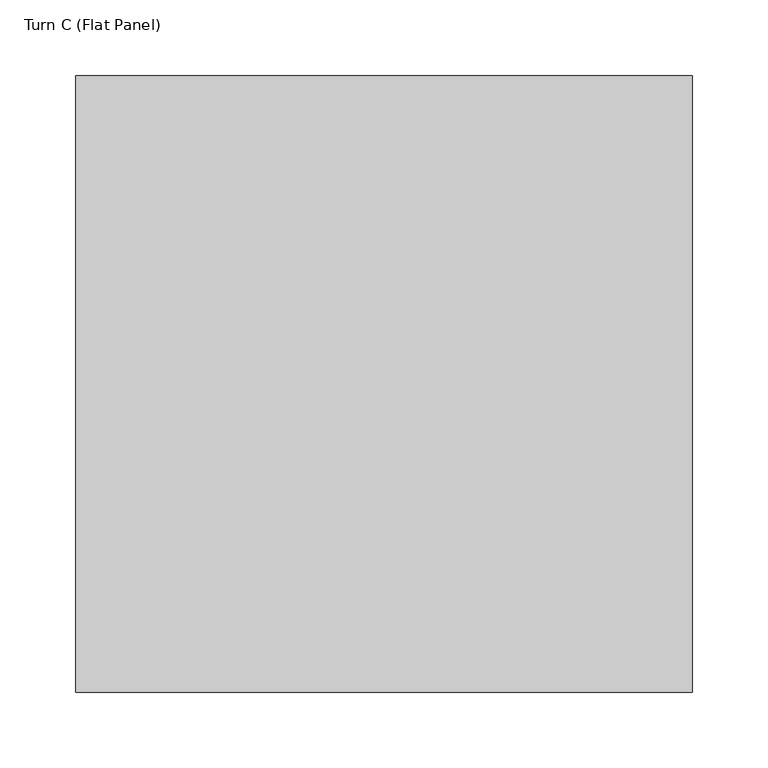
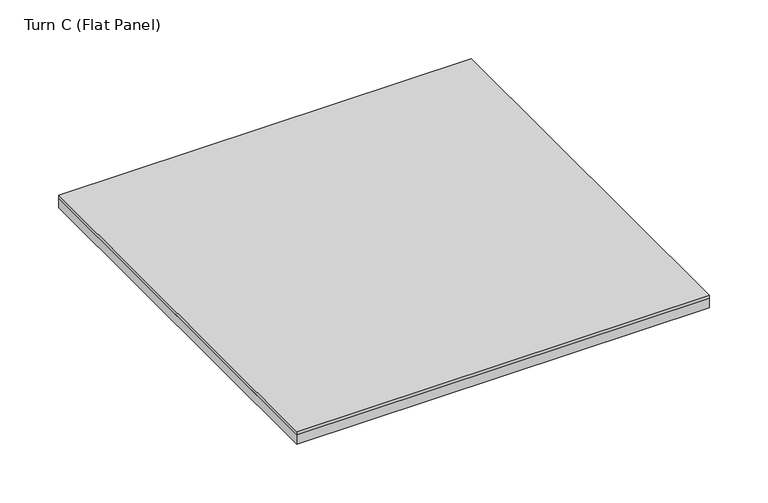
"""IFC4 building model written with IfcOpenShell, lengths in millimetres: proxy geometry, FilzFelt_Turn : Turn C (Flat Panel)."""

import ifcopenshell
import ifcopenshell.guid

model = None  # the IFC model being written
_history = None  # IfcOwnerHistory: only IFC2X3 demands one
_inside = {}  # id of a spatial element -> (the spatial element, [elements in it])
_under = {}  # id of a project, library or spatial element -> (it, [spatial elements below it])
_declared = {}  # id of a project -> (the project, [libraries it declares])
_typed = {}  # id of a type object -> (the type object, [elements of that type])
_made_of = {}  # id of a material, layer set ... -> (it, [elements and type objects made of it])


def new_model(schema):
    """Start an empty IFC model of exactly this schema.

    Asked for "IFC4X3", IfcOpenShell would pick the latest addendum, in which some entities
    have other attributes; the version numbers below select the first issue.
    IFC2X3 requires an IfcOwnerHistory on every rooted entity: one is made here for all.
    """
    global model, _history
    if schema == "IFC4X3":
        model = ifcopenshell.file(schema_version=(4, 3, 0, 0))
    else:
        model = ifcopenshell.file(schema=schema)
    _inside.clear()
    _under.clear()
    _declared.clear()
    _typed.clear()
    _made_of.clear()
    _history = None
    if model.schema == "IFC2X3":
        org = make("IfcOrganization", Name="unknown")
        user = make(
            "IfcPersonAndOrganization",
            ThePerson=make("IfcPerson", FamilyName="unknown"),
            TheOrganization=org,
        )
        app = make(
            "IfcApplication",
            ApplicationDeveloper=org,
            Version="unknown",
            ApplicationFullName="unknown",
            ApplicationIdentifier="unknown",
        )
        _history = make(
            "IfcOwnerHistory",
            OwningUser=user,
            OwningApplication=app,
            ChangeAction="ADDED",
            CreationDate=0,
        )
    return model


def make(cls, **values):
    """One entity of the class cls with the attributes given. An attribute that is None is left unset."""
    return model.create_entity(
        cls, **{name: value for name, value in values.items() if value is not None}
    )


def rooted(cls, **values):
    """An entity with a GlobalId (a new one), such as an element, a storey or a relation."""
    return make(cls, GlobalId=ifcopenshell.guid.new(), OwnerHistory=_history, **values)


def si_unit(unit_type, name, prefix=None):
    """IfcSIUnit, for example si_unit("LENGTHUNIT", "METRE", prefix="MILLI")."""
    return make("IfcSIUnit", UnitType=unit_type, Prefix=prefix, Name=name)


def assignment(units):
    """IfcUnitAssignment: the units of a project."""
    return None if units is None else make("IfcUnitAssignment", Units=units)


def point(xyz):
    """IfcCartesianPoint."""
    return None if xyz is None else make("IfcCartesianPoint", Coordinates=xyz)


def direction(xyz):
    """IfcDirection."""
    return None if xyz is None else make("IfcDirection", DirectionRatios=xyz)


def frame(location, z_axis=None, x_axis=None):
    """IfcAxis2Placement3D, a coordinate frame: its origin and axes. An axis left out is left unset."""
    return make(
        "IfcAxis2Placement3D",
        Location=point(location),
        Axis=direction(z_axis),
        RefDirection=direction(x_axis),
    )


def origin():
    """The frame at (0, 0, 0) with its axes left unset."""
    return frame((0.0, 0.0, 0.0))


def origin_with_axes():
    """The frame at (0, 0, 0) with the z axis (0, 0, 1) and the x axis (1, 0, 0) written out."""
    return frame((0.0, 0.0, 0.0), z_axis=(0.0, 0.0, 1.0), x_axis=(1.0, 0.0, 0.0))


def place(relative_to, where):
    """IfcLocalPlacement: puts the frame where relative to a parent placement (None: the world)."""
    return make(
        "IfcLocalPlacement", PlacementRelTo=relative_to, RelativePlacement=where
    )


def context(
    kind, dimensions, precision=None, world=None, true_north=None, identifier=None
):
    """IfcGeometricRepresentationContext, for example the 3D "Model" context."""
    return make(
        "IfcGeometricRepresentationContext",
        ContextIdentifier=identifier,
        ContextType=kind,
        CoordinateSpaceDimension=dimensions,
        Precision=precision,
        WorldCoordinateSystem=world,
        TrueNorth=true_north,
    )


def project(units=None, contexts=None):
    """IfcProject with its units and contexts."""
    return rooted(
        "IfcProject",
        Name="project",
        RepresentationContexts=contexts,
        UnitsInContext=assignment(units),
    )


def spatial(cls, under=None, at=None, **own):
    """A site, building, storey or space (cls), placed at a placement, below another one or the project."""
    s = rooted(cls, ObjectPlacement=at, **own)
    if under is not None:
        _under.setdefault(under.id(), (under, []))[1].append(s)
    return s


def polyline(points):
    """IfcPolyline through the points."""
    return make("IfcPolyline", Points=[point(p) for p in points])


def outline(outer, holes=None, kind="AREA"):
    """IfcArbitraryClosedProfileDef: a profile drawn as a closed curve; with holes, ...WithVoids."""
    if holes is None:
        return make("IfcArbitraryClosedProfileDef", ProfileType=kind, OuterCurve=outer)
    return make(
        "IfcArbitraryProfileDefWithVoids",
        ProfileType=kind,
        OuterCurve=outer,
        InnerCurves=holes,
    )


def extrude(swept, where, along, depth):
    """IfcExtrudedAreaSolid: the profile swept, set in the frame where, extruded along a direction by depth."""
    return make(
        "IfcExtrudedAreaSolid",
        SweptArea=swept,
        Position=where,
        ExtrudedDirection=direction(along),
        Depth=depth,
    )


def shape(context_of_items, identifier, shape_type, items):
    """IfcShapeRepresentation: the items that make up one representation, for example the "Body"."""
    return make(
        "IfcShapeRepresentation",
        ContextOfItems=context_of_items,
        RepresentationIdentifier=identifier,
        RepresentationType=shape_type,
        Items=items,
    )


def source(mapping_origin, context_of_items, identifier, shape_type, items):
    """IfcRepresentationMap: a shape defined once, which mapped items show again and again."""
    return make(
        "IfcRepresentationMap",
        MappingOrigin=mapping_origin,
        MappedRepresentation=shape(context_of_items, identifier, shape_type, items),
    )


def transform(
    local_origin,
    x_axis=None,
    y_axis=None,
    z_axis=None,
    scale=None,
    scale2=None,
    scale3=None,
    uniform=True,
):
    """IfcCartesianTransformationOperator3D, or its non-uniform kind. x_axis, y_axis, z_axis: its Axis1, 2, 3."""
    if uniform:
        return make(
            "IfcCartesianTransformationOperator3D",
            Axis1=direction(x_axis),
            Axis2=direction(y_axis),
            LocalOrigin=point(local_origin),
            Scale=scale,
            Axis3=direction(z_axis),
        )
    return make(
        "IfcCartesianTransformationOperator3DnonUniform",
        Axis1=direction(x_axis),
        Axis2=direction(y_axis),
        LocalOrigin=point(local_origin),
        Scale=scale,
        Axis3=direction(z_axis),
        Scale2=scale2,
        Scale3=scale3,
    )


def mapped(mapping_source, mapping_target):
    """IfcMappedItem: shows the shape of a source again, moved by a transform."""
    return make(
        "IfcMappedItem", MappingSource=mapping_source, MappingTarget=mapping_target
    )


def made_of(thing, what):
    """Note that an element or type object is made of a material, layer set ...; save() writes the relation."""
    if what is not None:
        _made_of.setdefault(what.id(), (what, []))[1].append(thing)
    return thing


def element(
    cls,
    number,
    at=None,
    inside=None,
    cuts=None,
    type_object=None,
    material=None,
    context=None,
    identifier="Body",
    shape_type=None,
    held_by="IfcProductDefinitionShape",
    body=None,
    shapes=None,
    **own,
):
    """One element of the class cls, such as IfcWall. Its Tag is "e" and its number.

    at: its placement. inside: the storey or other place that contains it. cuts: it is an
    opening in that element (IfcRelVoidsElement). A single representation is given by context,
    identifier, shape_type and body (its items); several are given by shapes. held_by: the class
    of the entity that holds the representations. save() writes the other relations.
    """
    e = rooted(cls, Tag="e%d" % number, ObjectPlacement=at, **own)
    if body is not None:
        shapes = [shape(context, identifier, shape_type, body)]
    if shapes is not None:
        e.Representation = make(held_by, Representations=shapes)
    if inside is not None:
        _inside.setdefault(inside.id(), (inside, []))[1].append(e)
    if cuts is not None:
        rooted(
            "IfcRelVoidsElement", RelatingBuildingElement=cuts, RelatedOpeningElement=e
        )
    if type_object is not None:
        _typed.setdefault(type_object.id(), (type_object, []))[1].append(e)
    return made_of(e, material)


def aggregate(whole, parts):
    """IfcRelAggregates: a whole, such as a stair, and the parts it consists of."""
    return rooted("IfcRelAggregates", RelatingObject=whole, RelatedObjects=parts)


def save(model, path):
    """Write the relations noted so far, then the file.

    IfcRelAggregates (storeys below a building ...), IfcRelContainedInSpatialStructure (elements
    in a storey), IfcRelDefinesByType, IfcRelAssociatesMaterial and IfcRelDeclares: one each for
    every whole, place, type object, material and project.
    """
    for whole, parts in _under.values():
        aggregate(whole, parts)
    for where, things in _inside.values():
        rooted(
            "IfcRelContainedInSpatialStructure",
            RelatedElements=things,
            RelatingStructure=where,
        )
    for kind, things in _typed.values():
        rooted("IfcRelDefinesByType", RelatedObjects=things, RelatingType=kind)
    for what, things in _made_of.values():
        rooted("IfcRelAssociatesMaterial", RelatedObjects=things, RelatingMaterial=what)
    for by, libraries in _declared.values():
        rooted("IfcRelDeclares", RelatingContext=by, RelatedDefinitions=libraries)
    model.write(path)


def turn_c_flat_panel_6ed3f7a1(model_context):
    return source(origin(), model_context, "Body", "SweptSolid", [
        extrude(outline(polyline([(-203.2, -203.2), (-203.2, 203.2), (203.2, 203.2), (203.2, -203.2), (-203.2, -203.2)])), frame((0.0, 0.0, 10.0210937), z_axis=(0.0, 0.0, 1.0), x_axis=(1.0, 0.0, 0.0)), (0.0, 0.0, 1.0), 2.9765625),
        extrude(outline(polyline([(-203.2, -203.2), (-203.2, 203.2), (203.2, 203.2), (203.2, -203.2), (-203.2, -203.2)])), origin_with_axes(), (0.0, 0.0, 1.0), 10.0210938),
    ])


if __name__ == "__main__":
    model = new_model("IFC4")
    model_context = context("Model", 3, world=origin())
    ifc_project = project(units=[si_unit("LENGTHUNIT", "METRE", prefix="MILLI")], contexts=[model_context])
    site = spatial("IfcSite", under=ifc_project)
    building = spatial("IfcBuilding", under=site)
    placement = place(None, origin())
    turn_c_flat_panel_shape = turn_c_flat_panel_6ed3f7a1(model_context)
    element("IfcBuildingElementProxy", 1, Name="FilzFelt_Turn : Turn C (Flat Panel)", ObjectType="FilzFelt_Turn : Turn C (Flat Panel)", at=placement, inside=building, context=model_context, shape_type="MappedRepresentation", body=[
        mapped(turn_c_flat_panel_shape, transform((0.0, 0.0, 0.0), x_axis=(1.0, 0.0, 0.0), y_axis=(0.0, 1.0, 0.0), z_axis=(0.0, 0.0, 1.0))),
    ])
    save(model, "model.ifc")
